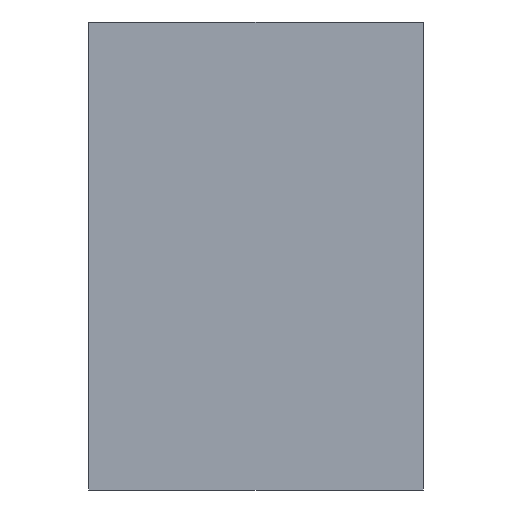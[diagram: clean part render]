
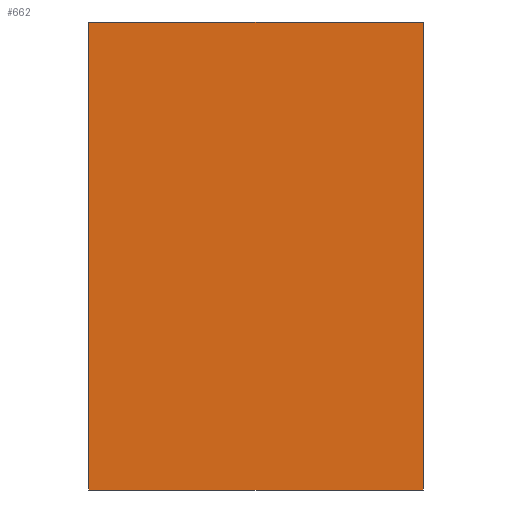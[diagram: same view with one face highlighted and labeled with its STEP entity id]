
A CAD part, front view. The second image highlights one B-rep face of the part: STEP entity #662.
In plain terms, the highlighted planar face has unit normal (0, -1, 0).
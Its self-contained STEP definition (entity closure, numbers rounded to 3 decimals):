
#40=PLANE('',#724);
#76=FACE_OUTER_BOUND('',#114,.T.);
#114=EDGE_LOOP('',(#583,#584,#585,#586));
#191=LINE('',#1076,#271);
#192=LINE('',#1078,#272);
#193=LINE('',#1080,#273);
#194=LINE('',#1081,#274);
#271=VECTOR('',#883,10.);
#272=VECTOR('',#884,10.);
#273=VECTOR('',#885,10.);
#274=VECTOR('',#886,10.);
#349=VERTEX_POINT('',#1074);
#350=VERTEX_POINT('',#1075);
#351=VERTEX_POINT('',#1077);
#352=VERTEX_POINT('',#1079);
#435=EDGE_CURVE('',#349,#350,#191,.T.);
#436=EDGE_CURVE('',#350,#351,#192,.T.);
#437=EDGE_CURVE('',#351,#352,#193,.T.);
#438=EDGE_CURVE('',#352,#349,#194,.T.);
#583=ORIENTED_EDGE('',*,*,#435,.T.);
#584=ORIENTED_EDGE('',*,*,#436,.T.);
#585=ORIENTED_EDGE('',*,*,#437,.T.);
#586=ORIENTED_EDGE('',*,*,#438,.T.);
#662=ADVANCED_FACE('',(#76),#40,.T.);
#724=AXIS2_PLACEMENT_3D('',#1073,#881,#882);
#881=DIRECTION('center_axis',(0.,-1.,0.));
#882=DIRECTION('ref_axis',(0.,0.,-1.));
#883=DIRECTION('',(0.,0.,-1.));
#884=DIRECTION('',(1.,0.,0.));
#885=DIRECTION('',(0.,0.,1.));
#886=DIRECTION('',(-1.,0.,0.));
#1073=CARTESIAN_POINT('Origin',(58.75,-3.,-83.));
#1074=CARTESIAN_POINT('',(-2.,-3.,2.));
#1075=CARTESIAN_POINT('',(-2.,-3.,-168.));
#1076=CARTESIAN_POINT('',(-2.,-3.,2.));
#1077=CARTESIAN_POINT('',(119.5,-3.,-168.));
#1078=CARTESIAN_POINT('',(-2.,-3.,-168.));
#1079=CARTESIAN_POINT('',(119.5,-3.,2.));
#1080=CARTESIAN_POINT('',(119.5,-3.,-168.));
#1081=CARTESIAN_POINT('',(119.5,-3.,2.));
